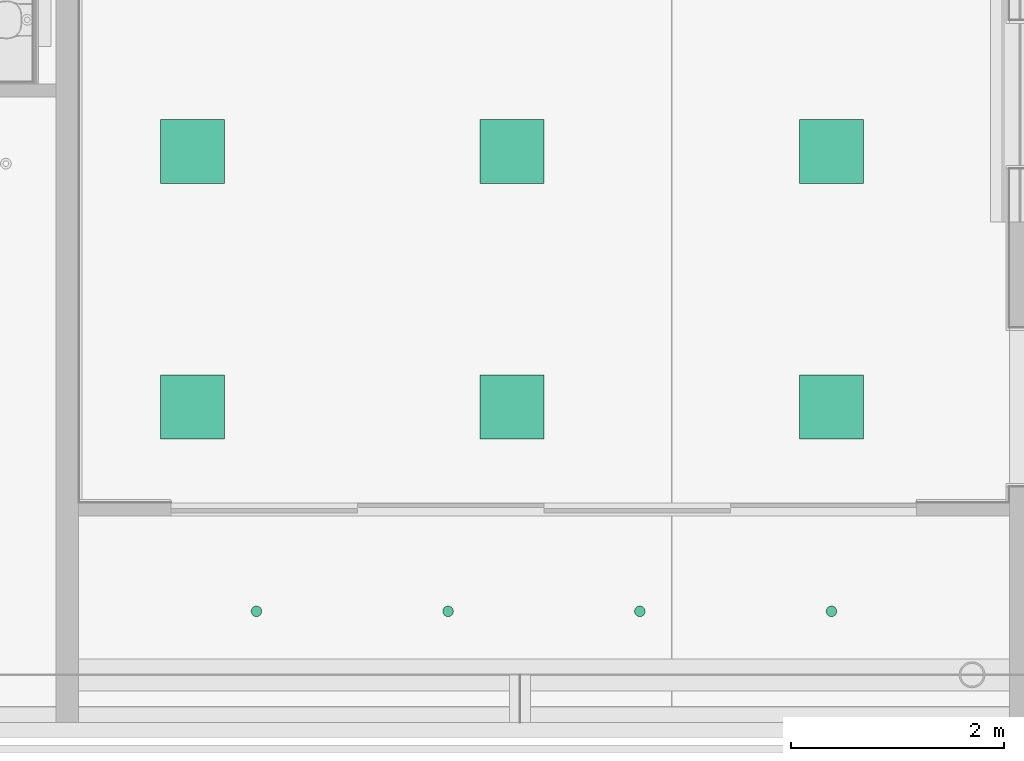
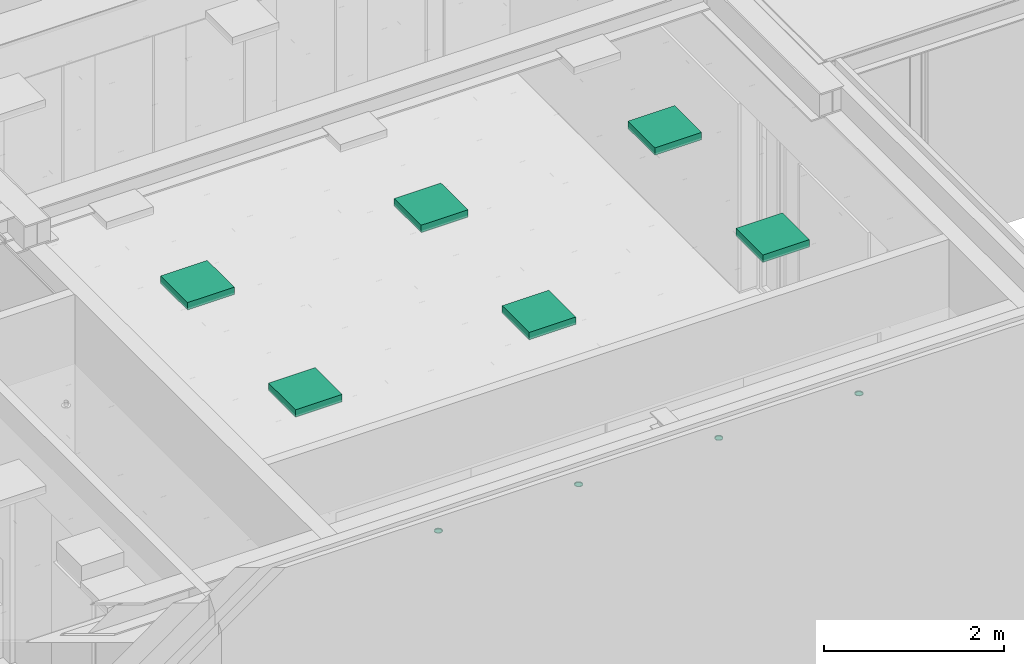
# One storey, part 235 of 347: 10 flow terminals.
"""IFC2X3 building model written with IfcOpenShell, lengths in millimetres."""

from ifc_helpers import new_model, entity, si_unit, converted_unit, derived_unit, money_unit, direction, frame, origin_with_axes, place, context, subcontext, project, spatial, open_shell, faceted_brep, surface_model, source, transform, mapped, type_object, type_shapes, element, save


model = new_model("IFC2X3")

# Units and contexts
model_context = context("Model", 3, precision=0.01, world=origin_with_axes(), true_north=direction((0.0, 1.0)))
plan_context = context("Plan", 3, precision=0.01, world=origin_with_axes(), true_north=direction((0.0, 1.0)))
body_context = subcontext(model_context, "Body", "Model", "MODEL_VIEW")
ifc_project = project(units=[si_unit("LENGTHUNIT", "METRE", prefix="MILLI"), si_unit("AREAUNIT", "SQUARE_METRE"), si_unit("VOLUMEUNIT", "CUBIC_METRE"), converted_unit("PLANEANGLEUNIT", "DEGREE", entity("IfcPlaneAngleMeasure", 0.0174532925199), si_unit("PLANEANGLEUNIT", "RADIAN"), dimensions=[0, 0, 0, 0, 0, 0, 0]), money_unit("EUR"), converted_unit("TIMEUNIT", "Year", entity("IfcTimeMeasure", 31556926.0), si_unit("TIMEUNIT", "SECOND"), dimensions=[0, 0, 1, 0, 0, 0, 0]), si_unit("MASSUNIT", "GRAM", prefix="KILO"), si_unit("THERMODYNAMICTEMPERATUREUNIT", "DEGREE_CELSIUS"), si_unit("LUMINOUSINTENSITYUNIT", "LUMEN"), si_unit("ENERGYUNIT", "JOULE", prefix="MEGA"), derived_unit("THERMALCONDUCTANCEUNIT", [(si_unit("POWERUNIT", "WATT"), 1), (si_unit("LENGTHUNIT", "METRE"), -1), (si_unit("THERMODYNAMICTEMPERATUREUNIT", "KELVIN"), -1)]), derived_unit("SPECIFICHEATCAPACITYUNIT", [(si_unit("ENERGYUNIT", "JOULE"), 1), (si_unit("MASSUNIT", "GRAM", prefix="KILO"), -1), (si_unit("THERMODYNAMICTEMPERATUREUNIT", "KELVIN"), -1)]), derived_unit("MASSDENSITYUNIT", [(si_unit("MASSUNIT", "GRAM", prefix="KILO"), 1), (si_unit("VOLUMEUNIT", "CUBIC_METRE"), -1)])], contexts=[model_context, plan_context])

# Site, building, storey
site_placement = place(None, origin_with_axes())
site = spatial("IfcSite", under=ifc_project, at=site_placement, Name="Site", CompositionType="ELEMENT")
building_placement = place(site_placement, origin_with_axes())
building = spatial("IfcBuilding", under=site, at=building_placement, Name="Naam gebouw", CompositionType="ELEMENT")
storey_placement = place(building_placement, origin_with_axes())
storey = spatial("IfcBuildingStorey", under=building, at=storey_placement, Name="begane grond", CompositionType="ELEMENT", Elevation=0.0)

# Flow terminals
lamp_type_1 = type_object("IfcLampType", Name="Spot plafond 01 25", PredefinedType="NOTDEFINED")
shared_shape_1 = source(origin_with_axes(), body_context, "Body", "SurfaceModel", [
    faceted_brep([(50.0, 0.0, -10.0), (46.1939766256, 19.1341716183, -10.0), (46.1939766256, 19.1341716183, 0.0), (50.0, 0.0, 0.0), (46.1939766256, -19.1341716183, -10.0), (35.3553390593, -35.3553390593, -10.0), (19.1341716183, -46.1939766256, -10.0), (0.0, -50.0, -10.0), (-19.1341716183, -46.1939766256, -10.0), (-35.3553390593, -35.3553390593, -10.0), (-46.1939766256, -19.1341716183, -10.0), (-50.0, 0.0, -10.0), (-46.1939766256, 19.1341716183, -10.0), (-35.3553390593, 35.3553390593, -10.0), (-19.1341716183, 46.1939766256, -10.0), (0.0, 50.0, -10.0), (19.1341716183, 46.1939766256, -10.0), (35.3553390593, 35.3553390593, -10.0), (40.0, 0.0, -10.0), (36.9551813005, 15.3073372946, -10.0), (28.2842712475, 28.2842712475, -10.0), (15.3073372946, 36.9551813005, -10.0), (0.0, 40.0, -10.0), (-15.3073372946, 36.9551813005, -10.0), (-28.2842712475, 28.2842712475, -10.0), (-36.9551813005, 15.3073372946, -10.0), (-40.0, 0.0, -10.0), (-36.9551813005, -15.3073372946, -10.0), (-28.2842712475, -28.2842712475, -10.0), (-15.3073372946, -36.9551813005, -10.0), (0.0, -40.0, -10.0), (15.3073372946, -36.9551813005, -10.0), (28.2842712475, -28.2842712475, -10.0), (36.9551813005, -15.3073372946, -10.0), (35.3553390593, 35.3553390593, 0.0), (19.1341716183, 46.1939766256, 0.0), (0.0, 50.0, 0.0), (-19.1341716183, 46.1939766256, 0.0), (-35.3553390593, 35.3553390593, 0.0), (-46.1939766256, 19.1341716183, 0.0), (-50.0, 0.0, 0.0), (-46.1939766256, -19.1341716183, 0.0), (-35.3553390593, -35.3553390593, 0.0), (-19.1341716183, -46.1939766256, 0.0), (0.0, -50.0, 0.0), (19.1341716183, -46.1939766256, 0.0), (35.3553390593, -35.3553390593, 0.0), (46.1939766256, -19.1341716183, 0.0), (40.0, 0.0, 0.0), (36.9551813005, -15.3073372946, 0.0), (28.2842712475, -28.2842712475, 0.0), (15.3073372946, -36.9551813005, 0.0), (0.0, -40.0, 0.0), (-15.3073372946, -36.9551813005, 0.0), (-28.2842712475, -28.2842712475, 0.0), (-36.9551813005, -15.3073372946, 0.0), (-40.0, 0.0, 0.0), (-36.9551813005, 15.3073372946, 0.0), (-28.2842712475, 28.2842712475, 0.0), (-15.3073372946, 36.9551813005, 0.0), (0.0, 40.0, 0.0), (15.3073372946, 36.9551813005, 0.0), (28.2842712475, 28.2842712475, 0.0), (36.9551813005, 15.3073372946, 0.0)], [[[0, 1, 2, 3]], [[0, 4, 5, 6, 7, 8, 9, 10, 11, 12, 13, 14, 15, 16, 17, 1], [18, 19, 20, 21, 22, 23, 24, 25, 26, 27, 28, 29, 30, 31, 32, 33]], [[1, 17, 34, 2]], [[3, 2, 34, 35, 36, 37, 38, 39, 40, 41, 42, 43, 44, 45, 46, 47], [48, 49, 50, 51, 52, 53, 54, 55, 56, 57, 58, 59, 60, 61, 62, 63]], [[4, 0, 3, 47]], [[5, 4, 47, 46]], [[6, 5, 46, 45]], [[7, 6, 45, 44]], [[8, 7, 44, 43]], [[9, 8, 43, 42]], [[10, 9, 42, 41]], [[11, 10, 41, 40]], [[12, 11, 40, 39]], [[13, 12, 39, 38]], [[14, 13, 38, 37]], [[15, 14, 37, 36]], [[16, 15, 36, 35]], [[17, 16, 35, 34]], [[19, 18, 48, 63]], [[20, 19, 63, 62]], [[21, 20, 62, 61]], [[22, 21, 61, 60]], [[23, 22, 60, 59]], [[24, 23, 59, 58]], [[25, 24, 58, 57]], [[26, 25, 57, 56]], [[27, 26, 56, 55]], [[28, 27, 55, 54]], [[29, 28, 54, 53]], [[30, 29, 53, 52]], [[31, 30, 52, 51]], [[32, 31, 51, 50]], [[33, 32, 50, 49]], [[18, 33, 49, 48]]]),
    surface_model("IfcShellBasedSurfaceModel", [(40.0, 0.0, -8.9), (36.9551813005, -15.3073372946, -8.9), (28.2842712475, -28.2842712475, -8.9), (15.3073372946, -36.9551813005, -8.9), (0.0, -40.0, -8.9), (-15.3073372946, -36.9551813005, -8.9), (-28.2842712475, -28.2842712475, -8.9), (-36.9551813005, -15.3073372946, -8.9), (-40.0, 0.0, -8.9), (-36.9551813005, 15.3073372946, -8.9), (-28.2842712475, 28.2842712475, -8.9), (-15.3073372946, 36.9551813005, -8.9), (0.0, 40.0, -8.9), (15.3073372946, 36.9551813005, -8.9), (28.2842712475, 28.2842712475, -8.9), (36.9551813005, 15.3073372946, -8.9)], [open_shell([[[0, 1, 2, 3, 4, 5, 6, 7, 8, 9, 10, 11, 12, 13, 14, 15]]])]),
])
type_shapes(lamp_type_1, [shared_shape_1])
for number, where, z_axis, x_axis, name in (
    (1, (39175.0087416, 5896.16277897, 2627.0), (0.0, 0.0, 1.0), (1.0, 0.0, 0.0), "63_Lamp-x"),
    (2, (40975.0087416, 5896.16277897, 2627.0), (0.0, 0.0, 1.0), (1.0, 0.0, 0.0), "63_Lamp-x"),
    (3, (42775.0087416, 5896.16277897, 2600.0), (0.0, 0.0, 1.0), (1.0, 0.0, 0.0), "63_Lamp-x"),
    (4, (37375.0087416, 5896.16277899, 2627.0), (0.0, 0.0, 1.0), (1.0, 0.0, 0.0), "63_Lamp-x"),
):
    element("IfcFlowTerminal", number, at=place(storey_placement, frame(where, z_axis=z_axis, x_axis=x_axis)), inside=storey, type_object=lamp_type_1, Name=name, ObjectType="Lamp", context=body_context, shape_type="MappedRepresentation", body=[
        mapped(shared_shape_1, transform((0.0, 0.0, 0.0))),
    ])
lamp_type_2 = type_object("IfcLampType", Name="TL plafond 25", PredefinedType="NOTDEFINED")
shared_shape_2 = source(origin_with_axes(), body_context, "Body", "SurfaceModel", [
    faceted_brep([(0.0, 0.0, -100.0), (600.0, 0.0, -100.0), (600.0, 0.0, 0.0), (0.0, 0.0, 0.0), (0.0, 600.0, -100.0), (600.0, 600.0, -100.0), (40.0, 40.0, -100.0), (560.0, 40.0, -100.0), (560.0, 560.0, -100.0), (40.0, 560.0, -100.0), (600.0, 600.0, 0.0), (0.0, 600.0, 0.0), (40.0, 40.0, 0.0), (40.0, 560.0, 0.0), (560.0, 560.0, 0.0), (560.0, 40.0, 0.0)], [[[0, 1, 2, 3]], [[0, 4, 5, 1], [6, 7, 8, 9]], [[1, 5, 10, 2]], [[3, 2, 10, 11], [12, 13, 14, 15]], [[4, 0, 3, 11]], [[5, 4, 11, 10]], [[7, 6, 12, 15]], [[8, 7, 15, 14]], [[9, 8, 14, 13]], [[6, 9, 13, 12]]]),
    faceted_brep([(40.0, 40.0, -16.3333333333), (560.0, 40.0, -16.3333333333), (560.0, 40.0, 0.0), (40.0, 40.0, 0.0), (40.0, 560.0, -16.3333333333), (560.0, 560.0, -16.3333333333), (560.0, 560.0, 0.0), (40.0, 560.0, 0.0)], [[[0, 1, 2, 3]], [[0, 4, 5, 1]], [[1, 5, 6, 2]], [[3, 2, 6, 7]], [[4, 0, 3, 7]], [[5, 4, 7, 6]]]),
    surface_model("IfcShellBasedSurfaceModel", [(559.0, 41.0, -100.0), (40.0, 41.0, -100.0), (40.0, 559.0, -100.0), (559.0, 559.0, -100.0)], [open_shell([[[0, 1, 2, 3]]])]),
    faceted_brep([(40.0, 40.0, -100.0), (560.0, 40.0, -100.0), (560.0, 40.0, -60.0), (40.0, 40.0, -60.0), (40.0, 560.0, -100.0), (560.0, 560.0, -100.0), (41.0, 41.0, -100.0), (559.0, 41.0, -100.0), (559.0, 559.0, -100.0), (41.0, 559.0, -100.0), (560.0, 560.0, -60.0), (40.0, 560.0, -60.0), (41.0, 41.0, -60.0), (41.0, 559.0, -60.0), (559.0, 559.0, -60.0), (559.0, 41.0, -60.0)], [[[0, 1, 2, 3]], [[0, 4, 5, 1], [6, 7, 8, 9]], [[1, 5, 10, 2]], [[3, 2, 10, 11], [12, 13, 14, 15]], [[4, 0, 3, 11]], [[5, 4, 11, 10]], [[7, 6, 12, 15]], [[8, 7, 15, 14]], [[9, 8, 14, 13]], [[6, 9, 13, 12]]]),
    faceted_brep([(40.0, 144.0, -48.3333333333), (40.0, 149.740251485, -47.191526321), (560.0, 149.740251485, -47.191526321), (560.0, 144.0, -48.3333333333), (40.0, 138.259748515, -47.191526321), (40.0, 133.393398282, -43.9399350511), (40.0, 130.141807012, -39.0735848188), (40.0, 129.0, -33.3333333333), (40.0, 130.141807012, -27.5930818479), (40.0, 133.393398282, -22.7267316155), (40.0, 138.259748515, -19.4751403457), (40.0, 144.0, -18.3333333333), (40.0, 149.740251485, -19.4751403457), (40.0, 154.606601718, -22.7267316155), (40.0, 157.858192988, -27.5930818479), (40.0, 159.0, -33.3333333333), (40.0, 157.858192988, -39.0735848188), (40.0, 154.606601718, -43.9399350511), (40.0, 144.0, -46.3333333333), (40.0, 148.974884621, -45.343767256), (40.0, 153.192388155, -42.5257214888), (40.0, 156.010433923, -38.3082179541), (40.0, 157.0, -33.3333333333), (40.0, 156.010433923, -28.3584487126), (40.0, 153.192388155, -24.1409451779), (40.0, 148.974884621, -21.3228994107), (40.0, 144.0, -20.3333333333), (40.0, 139.025115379, -21.3228994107), (40.0, 134.807611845, -24.1409451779), (40.0, 131.989566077, -28.3584487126), (40.0, 131.0, -33.3333333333), (40.0, 131.989566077, -38.3082179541), (40.0, 134.807611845, -42.5257214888), (40.0, 139.025115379, -45.343767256), (560.0, 154.606601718, -43.9399350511), (560.0, 157.858192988, -39.0735848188), (560.0, 159.0, -33.3333333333), (560.0, 157.858192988, -27.5930818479), (560.0, 154.606601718, -22.7267316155), (560.0, 149.740251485, -19.4751403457), (560.0, 144.0, -18.3333333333), (560.0, 138.259748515, -19.4751403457), (560.0, 133.393398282, -22.7267316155), (560.0, 130.141807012, -27.5930818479), (560.0, 129.0, -33.3333333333), (560.0, 130.141807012, -39.0735848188), (560.0, 133.393398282, -43.9399350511), (560.0, 138.259748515, -47.191526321), (560.0, 144.0, -46.3333333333), (560.0, 139.025115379, -45.343767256), (560.0, 134.807611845, -42.5257214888), (560.0, 131.989566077, -38.3082179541), (560.0, 131.0, -33.3333333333), (560.0, 131.989566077, -28.3584487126), (560.0, 134.807611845, -24.1409451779), (560.0, 139.025115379, -21.3228994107), (560.0, 144.0, -20.3333333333), (560.0, 148.974884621, -21.3228994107), (560.0, 153.192388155, -24.1409451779), (560.0, 156.010433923, -28.3584487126), (560.0, 157.0, -33.3333333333), (560.0, 156.010433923, -38.3082179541), (560.0, 153.192388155, -42.5257214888), (560.0, 148.974884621, -45.343767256)], [[[0, 1, 2, 3]], [[0, 4, 5, 6, 7, 8, 9, 10, 11, 12, 13, 14, 15, 16, 17, 1], [18, 19, 20, 21, 22, 23, 24, 25, 26, 27, 28, 29, 30, 31, 32, 33]], [[1, 17, 34, 2]], [[3, 2, 34, 35, 36, 37, 38, 39, 40, 41, 42, 43, 44, 45, 46, 47], [48, 49, 50, 51, 52, 53, 54, 55, 56, 57, 58, 59, 60, 61, 62, 63]], [[4, 0, 3, 47]], [[5, 4, 47, 46]], [[6, 5, 46, 45]], [[7, 6, 45, 44]], [[8, 7, 44, 43]], [[9, 8, 43, 42]], [[10, 9, 42, 41]], [[11, 10, 41, 40]], [[12, 11, 40, 39]], [[13, 12, 39, 38]], [[14, 13, 38, 37]], [[15, 14, 37, 36]], [[16, 15, 36, 35]], [[17, 16, 35, 34]], [[19, 18, 48, 63]], [[20, 19, 63, 62]], [[21, 20, 62, 61]], [[22, 21, 61, 60]], [[23, 22, 60, 59]], [[24, 23, 59, 58]], [[25, 24, 58, 57]], [[26, 25, 57, 56]], [[27, 26, 56, 55]], [[28, 27, 55, 54]], [[29, 28, 54, 53]], [[30, 29, 53, 52]], [[31, 30, 52, 51]], [[32, 31, 51, 50]], [[33, 32, 50, 49]], [[18, 33, 49, 48]]]),
    faceted_brep([(40.0, 248.0, -48.3333333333), (40.0, 253.740251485, -47.191526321), (560.0, 253.740251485, -47.191526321), (560.0, 248.0, -48.3333333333), (40.0, 242.259748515, -47.191526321), (40.0, 237.393398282, -43.9399350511), (40.0, 234.141807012, -39.0735848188), (40.0, 233.0, -33.3333333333), (40.0, 234.141807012, -27.5930818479), (40.0, 237.393398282, -22.7267316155), (40.0, 242.259748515, -19.4751403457), (40.0, 248.0, -18.3333333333), (40.0, 253.740251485, -19.4751403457), (40.0, 258.606601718, -22.7267316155), (40.0, 261.858192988, -27.5930818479), (40.0, 263.0, -33.3333333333), (40.0, 261.858192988, -39.0735848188), (40.0, 258.606601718, -43.9399350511), (40.0, 248.0, -46.3333333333), (40.0, 252.974884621, -45.343767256), (40.0, 257.192388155, -42.5257214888), (40.0, 260.010433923, -38.3082179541), (40.0, 261.0, -33.3333333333), (40.0, 260.010433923, -28.3584487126), (40.0, 257.192388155, -24.1409451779), (40.0, 252.974884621, -21.3228994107), (40.0, 248.0, -20.3333333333), (40.0, 243.025115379, -21.3228994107), (40.0, 238.807611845, -24.1409451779), (40.0, 235.989566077, -28.3584487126), (40.0, 235.0, -33.3333333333), (40.0, 235.989566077, -38.3082179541), (40.0, 238.807611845, -42.5257214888), (40.0, 243.025115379, -45.343767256), (560.0, 258.606601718, -43.9399350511), (560.0, 261.858192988, -39.0735848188), (560.0, 263.0, -33.3333333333), (560.0, 261.858192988, -27.5930818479), (560.0, 258.606601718, -22.7267316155), (560.0, 253.740251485, -19.4751403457), (560.0, 248.0, -18.3333333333), (560.0, 242.259748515, -19.4751403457), (560.0, 237.393398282, -22.7267316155), (560.0, 234.141807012, -27.5930818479), (560.0, 233.0, -33.3333333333), (560.0, 234.141807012, -39.0735848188), (560.0, 237.393398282, -43.9399350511), (560.0, 242.259748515, -47.191526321), (560.0, 248.0, -46.3333333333), (560.0, 243.025115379, -45.343767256), (560.0, 238.807611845, -42.5257214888), (560.0, 235.989566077, -38.3082179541), (560.0, 235.0, -33.3333333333), (560.0, 235.989566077, -28.3584487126), (560.0, 238.807611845, -24.1409451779), (560.0, 243.025115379, -21.3228994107), (560.0, 248.0, -20.3333333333), (560.0, 252.974884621, -21.3228994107), (560.0, 257.192388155, -24.1409451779), (560.0, 260.010433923, -28.3584487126), (560.0, 261.0, -33.3333333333), (560.0, 260.010433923, -38.3082179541), (560.0, 257.192388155, -42.5257214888), (560.0, 252.974884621, -45.343767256)], [[[0, 1, 2, 3]], [[0, 4, 5, 6, 7, 8, 9, 10, 11, 12, 13, 14, 15, 16, 17, 1], [18, 19, 20, 21, 22, 23, 24, 25, 26, 27, 28, 29, 30, 31, 32, 33]], [[1, 17, 34, 2]], [[3, 2, 34, 35, 36, 37, 38, 39, 40, 41, 42, 43, 44, 45, 46, 47], [48, 49, 50, 51, 52, 53, 54, 55, 56, 57, 58, 59, 60, 61, 62, 63]], [[4, 0, 3, 47]], [[5, 4, 47, 46]], [[6, 5, 46, 45]], [[7, 6, 45, 44]], [[8, 7, 44, 43]], [[9, 8, 43, 42]], [[10, 9, 42, 41]], [[11, 10, 41, 40]], [[12, 11, 40, 39]], [[13, 12, 39, 38]], [[14, 13, 38, 37]], [[15, 14, 37, 36]], [[16, 15, 36, 35]], [[17, 16, 35, 34]], [[19, 18, 48, 63]], [[20, 19, 63, 62]], [[21, 20, 62, 61]], [[22, 21, 61, 60]], [[23, 22, 60, 59]], [[24, 23, 59, 58]], [[25, 24, 58, 57]], [[26, 25, 57, 56]], [[27, 26, 56, 55]], [[28, 27, 55, 54]], [[29, 28, 54, 53]], [[30, 29, 53, 52]], [[31, 30, 52, 51]], [[32, 31, 51, 50]], [[33, 32, 50, 49]], [[18, 33, 49, 48]]]),
    faceted_brep([(40.0, 352.0, -48.3333333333), (40.0, 357.740251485, -47.191526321), (560.0, 357.740251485, -47.191526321), (560.0, 352.0, -48.3333333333), (40.0, 346.259748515, -47.191526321), (40.0, 341.393398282, -43.9399350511), (40.0, 338.141807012, -39.0735848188), (40.0, 337.0, -33.3333333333), (40.0, 338.141807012, -27.5930818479), (40.0, 341.393398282, -22.7267316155), (40.0, 346.259748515, -19.4751403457), (40.0, 352.0, -18.3333333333), (40.0, 357.740251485, -19.4751403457), (40.0, 362.606601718, -22.7267316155), (40.0, 365.858192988, -27.5930818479), (40.0, 367.0, -33.3333333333), (40.0, 365.858192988, -39.0735848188), (40.0, 362.606601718, -43.9399350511), (40.0, 352.0, -46.3333333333), (40.0, 356.974884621, -45.343767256), (40.0, 361.192388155, -42.5257214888), (40.0, 364.010433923, -38.3082179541), (40.0, 365.0, -33.3333333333), (40.0, 364.010433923, -28.3584487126), (40.0, 361.192388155, -24.1409451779), (40.0, 356.974884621, -21.3228994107), (40.0, 352.0, -20.3333333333), (40.0, 347.025115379, -21.3228994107), (40.0, 342.807611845, -24.1409451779), (40.0, 339.989566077, -28.3584487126), (40.0, 339.0, -33.3333333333), (40.0, 339.989566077, -38.3082179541), (40.0, 342.807611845, -42.5257214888), (40.0, 347.025115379, -45.343767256), (560.0, 362.606601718, -43.9399350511), (560.0, 365.858192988, -39.0735848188), (560.0, 367.0, -33.3333333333), (560.0, 365.858192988, -27.5930818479), (560.0, 362.606601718, -22.7267316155), (560.0, 357.740251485, -19.4751403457), (560.0, 352.0, -18.3333333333), (560.0, 346.259748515, -19.4751403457), (560.0, 341.393398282, -22.7267316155), (560.0, 338.141807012, -27.5930818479), (560.0, 337.0, -33.3333333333), (560.0, 338.141807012, -39.0735848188), (560.0, 341.393398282, -43.9399350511), (560.0, 346.259748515, -47.191526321), (560.0, 352.0, -46.3333333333), (560.0, 347.025115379, -45.343767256), (560.0, 342.807611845, -42.5257214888), (560.0, 339.989566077, -38.3082179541), (560.0, 339.0, -33.3333333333), (560.0, 339.989566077, -28.3584487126), (560.0, 342.807611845, -24.1409451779), (560.0, 347.025115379, -21.3228994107), (560.0, 352.0, -20.3333333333), (560.0, 356.974884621, -21.3228994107), (560.0, 361.192388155, -24.1409451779), (560.0, 364.010433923, -28.3584487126), (560.0, 365.0, -33.3333333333), (560.0, 364.010433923, -38.3082179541), (560.0, 361.192388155, -42.5257214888), (560.0, 356.974884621, -45.343767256)], [[[0, 1, 2, 3]], [[0, 4, 5, 6, 7, 8, 9, 10, 11, 12, 13, 14, 15, 16, 17, 1], [18, 19, 20, 21, 22, 23, 24, 25, 26, 27, 28, 29, 30, 31, 32, 33]], [[1, 17, 34, 2]], [[3, 2, 34, 35, 36, 37, 38, 39, 40, 41, 42, 43, 44, 45, 46, 47], [48, 49, 50, 51, 52, 53, 54, 55, 56, 57, 58, 59, 60, 61, 62, 63]], [[4, 0, 3, 47]], [[5, 4, 47, 46]], [[6, 5, 46, 45]], [[7, 6, 45, 44]], [[8, 7, 44, 43]], [[9, 8, 43, 42]], [[10, 9, 42, 41]], [[11, 10, 41, 40]], [[12, 11, 40, 39]], [[13, 12, 39, 38]], [[14, 13, 38, 37]], [[15, 14, 37, 36]], [[16, 15, 36, 35]], [[17, 16, 35, 34]], [[19, 18, 48, 63]], [[20, 19, 63, 62]], [[21, 20, 62, 61]], [[22, 21, 61, 60]], [[23, 22, 60, 59]], [[24, 23, 59, 58]], [[25, 24, 58, 57]], [[26, 25, 57, 56]], [[27, 26, 56, 55]], [[28, 27, 55, 54]], [[29, 28, 54, 53]], [[30, 29, 53, 52]], [[31, 30, 52, 51]], [[32, 31, 51, 50]], [[33, 32, 50, 49]], [[18, 33, 49, 48]]]),
    faceted_brep([(40.0, 456.0, -48.3333333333), (40.0, 461.740251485, -47.191526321), (560.0, 461.740251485, -47.191526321), (560.0, 456.0, -48.3333333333), (40.0, 450.259748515, -47.191526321), (40.0, 445.393398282, -43.9399350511), (40.0, 442.141807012, -39.0735848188), (40.0, 441.0, -33.3333333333), (40.0, 442.141807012, -27.5930818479), (40.0, 445.393398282, -22.7267316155), (40.0, 450.259748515, -19.4751403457), (40.0, 456.0, -18.3333333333), (40.0, 461.740251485, -19.4751403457), (40.0, 466.606601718, -22.7267316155), (40.0, 469.858192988, -27.5930818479), (40.0, 471.0, -33.3333333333), (40.0, 469.858192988, -39.0735848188), (40.0, 466.606601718, -43.9399350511), (40.0, 456.0, -46.3333333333), (40.0, 460.974884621, -45.343767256), (40.0, 465.192388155, -42.5257214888), (40.0, 468.010433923, -38.3082179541), (40.0, 469.0, -33.3333333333), (40.0, 468.010433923, -28.3584487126), (40.0, 465.192388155, -24.1409451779), (40.0, 460.974884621, -21.3228994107), (40.0, 456.0, -20.3333333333), (40.0, 451.025115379, -21.3228994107), (40.0, 446.807611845, -24.1409451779), (40.0, 443.989566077, -28.3584487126), (40.0, 443.0, -33.3333333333), (40.0, 443.989566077, -38.3082179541), (40.0, 446.807611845, -42.5257214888), (40.0, 451.025115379, -45.343767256), (560.0, 466.606601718, -43.9399350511), (560.0, 469.858192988, -39.0735848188), (560.0, 471.0, -33.3333333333), (560.0, 469.858192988, -27.5930818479), (560.0, 466.606601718, -22.7267316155), (560.0, 461.740251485, -19.4751403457), (560.0, 456.0, -18.3333333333), (560.0, 450.259748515, -19.4751403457), (560.0, 445.393398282, -22.7267316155), (560.0, 442.141807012, -27.5930818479), (560.0, 441.0, -33.3333333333), (560.0, 442.141807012, -39.0735848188), (560.0, 445.393398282, -43.9399350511), (560.0, 450.259748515, -47.191526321), (560.0, 456.0, -46.3333333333), (560.0, 451.025115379, -45.343767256), (560.0, 446.807611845, -42.5257214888), (560.0, 443.989566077, -38.3082179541), (560.0, 443.0, -33.3333333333), (560.0, 443.989566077, -28.3584487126), (560.0, 446.807611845, -24.1409451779), (560.0, 451.025115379, -21.3228994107), (560.0, 456.0, -20.3333333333), (560.0, 460.974884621, -21.3228994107), (560.0, 465.192388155, -24.1409451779), (560.0, 468.010433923, -28.3584487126), (560.0, 469.0, -33.3333333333), (560.0, 468.010433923, -38.3082179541), (560.0, 465.192388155, -42.5257214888), (560.0, 460.974884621, -45.343767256)], [[[0, 1, 2, 3]], [[0, 4, 5, 6, 7, 8, 9, 10, 11, 12, 13, 14, 15, 16, 17, 1], [18, 19, 20, 21, 22, 23, 24, 25, 26, 27, 28, 29, 30, 31, 32, 33]], [[1, 17, 34, 2]], [[3, 2, 34, 35, 36, 37, 38, 39, 40, 41, 42, 43, 44, 45, 46, 47], [48, 49, 50, 51, 52, 53, 54, 55, 56, 57, 58, 59, 60, 61, 62, 63]], [[4, 0, 3, 47]], [[5, 4, 47, 46]], [[6, 5, 46, 45]], [[7, 6, 45, 44]], [[8, 7, 44, 43]], [[9, 8, 43, 42]], [[10, 9, 42, 41]], [[11, 10, 41, 40]], [[12, 11, 40, 39]], [[13, 12, 39, 38]], [[14, 13, 38, 37]], [[15, 14, 37, 36]], [[16, 15, 36, 35]], [[17, 16, 35, 34]], [[19, 18, 48, 63]], [[20, 19, 63, 62]], [[21, 20, 62, 61]], [[22, 21, 61, 60]], [[23, 22, 60, 59]], [[24, 23, 59, 58]], [[25, 24, 58, 57]], [[26, 25, 57, 56]], [[27, 26, 56, 55]], [[28, 27, 55, 54]], [[29, 28, 54, 53]], [[30, 29, 53, 52]], [[31, 30, 52, 51]], [[32, 31, 51, 50]], [[33, 32, 50, 49]], [[18, 33, 49, 48]]]),
])
type_shapes(lamp_type_2, [shared_shape_2])
for number, where, z_axis, x_axis, name in (
    (5, (39475.0006219, 7515.00953644, 3595.0), (0.0, 0.0, 1.0), (1.0, 0.0, 0.0), "63_Lamp-x"),
    (6, (39475.0006219, 9915.00953644, 3595.0), (0.0, 0.0, 1.0), (1.0, 0.0, 0.0), "63_Lamp-x"),
    (7, (42475.0006219, 7515.00953644, 3595.0), (0.0, 0.0, 1.0), (1.0, 0.0, 0.0), "63_Lamp-x"),
    (8, (42475.0006219, 9915.00953644, 3595.0), (0.0, 0.0, 1.0), (1.0, 0.0, 0.0), "63_Lamp-x"),
    (9, (36475.0006219, 7515.00953644, 3595.0), (0.0, 0.0, 1.0), (1.0, 0.0, 0.0), "63_Lamp-x"),
    (10, (36475.0006219, 9915.00953644, 3595.0), (0.0, 0.0, 1.0), (1.0, 0.0, 0.0), "63_Lamp-x"),
):
    element("IfcFlowTerminal", number, at=place(storey_placement, frame(where, z_axis=z_axis, x_axis=x_axis)), inside=storey, type_object=lamp_type_2, Name=name, ObjectType="Lamp", context=body_context, shape_type="MappedRepresentation", body=[
        mapped(shared_shape_2, transform((0.0, 0.0, 0.0))),
    ])

save(model, "model.ifc")
